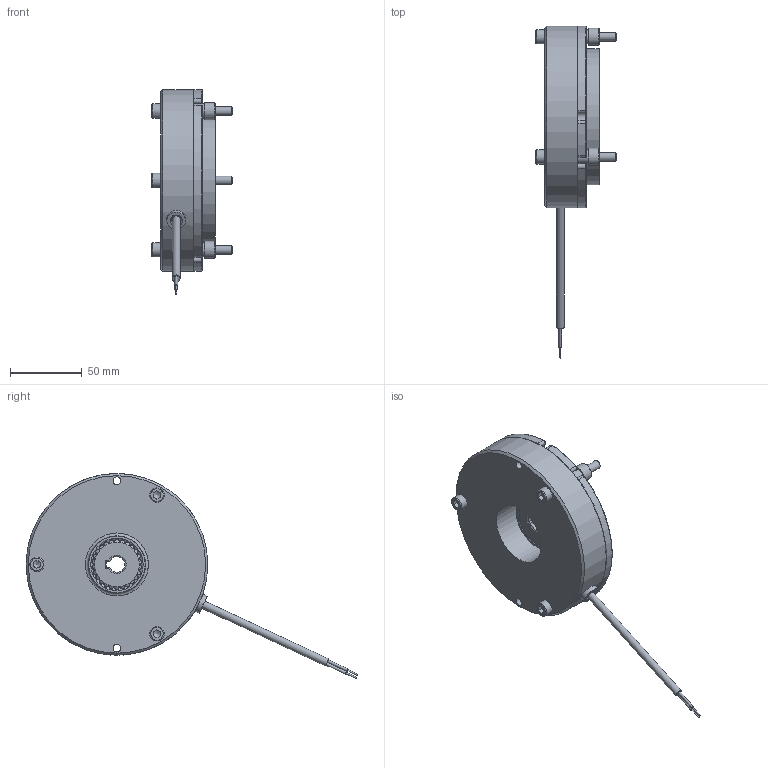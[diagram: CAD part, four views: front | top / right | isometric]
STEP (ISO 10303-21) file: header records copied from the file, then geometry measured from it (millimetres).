
FILE_DESCRIPTION(/* description */ (''),/* implementation_level */ '2;1');
FILE_NAME(/* name */ 'C:\SapWorkDir\Inventor\IP1\ConvertTempPath\5029483_IPT_000.ipt.stp',/* time_stamp */ '2021-04-21T07:38:04+02:00',/* author */ ('WOELK'),/* organization */ (''),/* preprocessor_version */ 'ST-DEVELOPER v17',/* originating_system */ 'Autodesk Inventor 2018',/* authorisation */ '');
FILE_SCHEMA (('AUTOMOTIVE_DESIGN { 1 0 10303 214 3 1 1 }'));
Products named in the file (1): 5029483
Bounding box: 56 x 231.93 x 143.18 mm (x, y, z)
Volume: 392550.7 mm3; surface area: 90263.7 mm2
Topology: 3 solids, 3 shells, 1766 faces, 5296 edges, 3418 vertices
Faces by surface type: cylinder 795, plane 332, bspline 313, torus 243, cone 83
Full cylindrical faces by diameter (mm): 1 x2, 1.85 x2, 5.3 x1, 5.5 x3, 6 x3, 6.15 x3, 6.4 x3, 6.6 x1, 8.917 x3, 10 x6, 10.4 x3, 12 x3, 13.2 x1, 38.3 x1, 44 x2, 65.7 x2, 66.1 x2, 95 x1, 127 x1
Entity records: 73900 total; most frequent: CARTESIAN_POINT 26304, ORIENTED_EDGE 10588, DIRECTION 8850, EDGE_CURVE 5294, AXIS2_PLACEMENT_3D 3628, VERTEX_POINT 3418, CIRCLE 2174, EDGE_LOOP 1818
